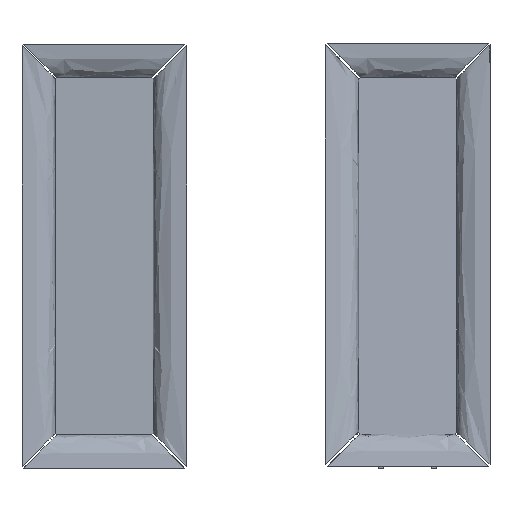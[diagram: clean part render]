
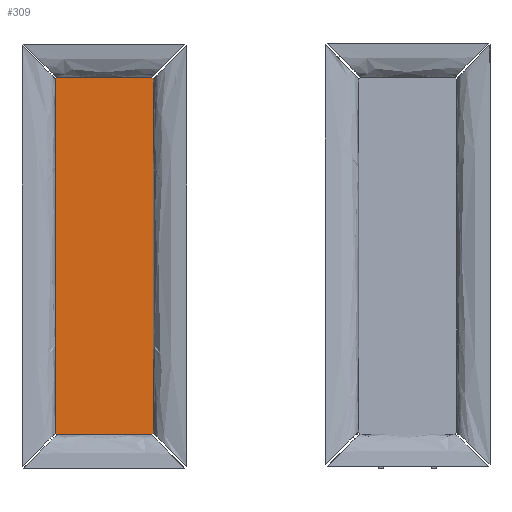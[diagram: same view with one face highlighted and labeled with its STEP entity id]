
A CAD part, front view. The second image highlights one B-rep face of the part: STEP entity #309.
In plain terms, the highlighted planar face has unit normal (0, -1, 0).
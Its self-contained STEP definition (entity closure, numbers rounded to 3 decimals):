
#309=ADVANCED_FACE('',(#474),#2469,.T.);
#474=FACE_OUTER_BOUND('',#641,.T.);
#641=EDGE_LOOP('',(#1371,#1372,#1373,#1374,#1375,#1376,#1377,#1378));
#1371=ORIENTED_EDGE('',*,*,#1764,.T.);
#1372=ORIENTED_EDGE('',*,*,#1778,.T.);
#1373=ORIENTED_EDGE('',*,*,#1777,.T.);
#1374=ORIENTED_EDGE('',*,*,#1776,.T.);
#1375=ORIENTED_EDGE('',*,*,#1775,.T.);
#1376=ORIENTED_EDGE('',*,*,#1774,.T.);
#1377=ORIENTED_EDGE('',*,*,#1773,.T.);
#1378=ORIENTED_EDGE('',*,*,#1772,.T.);
#1764=EDGE_CURVE('',#2390,#2404,#2143,.T.);
#1772=EDGE_CURVE('',#2398,#2390,#2151,.T.);
#1773=EDGE_CURVE('',#2399,#2398,#2152,.T.);
#1774=EDGE_CURVE('',#2400,#2399,#2153,.T.);
#1775=EDGE_CURVE('',#2401,#2400,#2154,.T.);
#1776=EDGE_CURVE('',#2402,#2401,#2155,.T.);
#1777=EDGE_CURVE('',#2403,#2402,#2156,.T.);
#1778=EDGE_CURVE('',#2404,#2403,#2157,.T.);
#2143=B_SPLINE_CURVE_WITH_KNOTS('',1,(#7872,#7873),.UNSPECIFIED.,.F.,.F.,
(2,2),(44.503,45.703),.UNSPECIFIED.);
#2151=B_SPLINE_CURVE_WITH_KNOTS('',1,(#7888,#7889),.UNSPECIFIED.,.F.,.F.,
(2,2),(417.212,460.515),.UNSPECIFIED.);
#2152=B_SPLINE_CURVE_WITH_KNOTS('',1,(#7890,#7891),.UNSPECIFIED.,.F.,.F.,
(2,2),(416.012,417.212),.UNSPECIFIED.);
#2153=B_SPLINE_CURVE_WITH_KNOTS('',1,(#7892,#7893),.UNSPECIFIED.,.F.,.F.,
(2,2),(253.709,416.012),.UNSPECIFIED.);
#2154=B_SPLINE_CURVE_WITH_KNOTS('',1,(#7894,#7895),.UNSPECIFIED.,.F.,.F.,
(2,2),(252.509,253.709),.UNSPECIFIED.);
#2155=B_SPLINE_CURVE_WITH_KNOTS('',1,(#7896,#7897),.UNSPECIFIED.,.F.,.F.,
(2,2),(209.206,252.509),.UNSPECIFIED.);
#2156=B_SPLINE_CURVE_WITH_KNOTS('',1,(#7898,#7899),.UNSPECIFIED.,.F.,.F.,
(2,2),(208.006,209.206),.UNSPECIFIED.);
#2157=B_SPLINE_CURVE_WITH_KNOTS('',1,(#7900,#7901),.UNSPECIFIED.,.F.,.F.,
(2,2),(45.703,208.006),.UNSPECIFIED.);
#2390=VERTEX_POINT('',#7853);
#2398=VERTEX_POINT('',#7861);
#2399=VERTEX_POINT('',#7862);
#2400=VERTEX_POINT('',#7863);
#2401=VERTEX_POINT('',#7864);
#2402=VERTEX_POINT('',#7865);
#2403=VERTEX_POINT('',#7866);
#2404=VERTEX_POINT('',#7867);
#2469=PLANE('',#2629);
#2629=AXIS2_PLACEMENT_3D('',#7844,#2705,$);
#2705=DIRECTION('',(0.,-1.,0.));
#7844=CARTESIAN_POINT('',(0.,-204.79,144.537));
#7853=CARTESIAN_POINT('',(8.485,-204.79,1784.537));
#7861=CARTESIAN_POINT('',(441.515,-204.79,1784.537));
#7862=CARTESIAN_POINT('',(450.,-204.79,1776.052));
#7863=CARTESIAN_POINT('',(450.,-204.79,153.023));
#7864=CARTESIAN_POINT('',(441.515,-204.79,144.537));
#7865=CARTESIAN_POINT('',(8.485,-204.79,144.537));
#7866=CARTESIAN_POINT('',(0.,-204.79,153.023));
#7867=CARTESIAN_POINT('',(0.,-204.79,1776.052));
#7872=CARTESIAN_POINT('',(8.485,-204.79,1784.537));
#7873=CARTESIAN_POINT('',(0.,-204.79,1776.052));
#7888=CARTESIAN_POINT('',(441.515,-204.79,1784.537));
#7889=CARTESIAN_POINT('',(8.485,-204.79,1784.537));
#7890=CARTESIAN_POINT('',(450.,-204.79,1776.052));
#7891=CARTESIAN_POINT('',(441.515,-204.79,1784.537));
#7892=CARTESIAN_POINT('',(450.,-204.79,153.023));
#7893=CARTESIAN_POINT('',(450.,-204.79,1776.052));
#7894=CARTESIAN_POINT('',(441.515,-204.79,144.537));
#7895=CARTESIAN_POINT('',(450.,-204.79,153.023));
#7896=CARTESIAN_POINT('',(8.485,-204.79,144.537));
#7897=CARTESIAN_POINT('',(441.515,-204.79,144.537));
#7898=CARTESIAN_POINT('',(0.,-204.79,153.023));
#7899=CARTESIAN_POINT('',(8.485,-204.79,144.537));
#7900=CARTESIAN_POINT('',(0.,-204.79,1776.052));
#7901=CARTESIAN_POINT('',(0.,-204.79,153.023));
